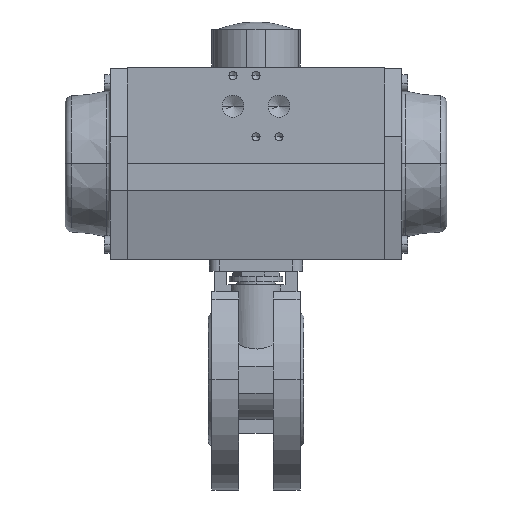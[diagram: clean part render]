
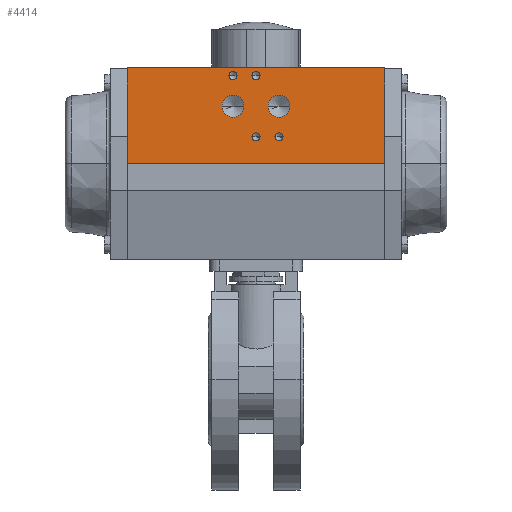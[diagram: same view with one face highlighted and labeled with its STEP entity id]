
A CAD part, top view. The second image highlights one B-rep face of the part: STEP entity #4414.
In plain terms, the highlighted planar face has unit normal (0, 0, 1) as drawn and (1, 0, 0) by its records, which use the part's own axes.
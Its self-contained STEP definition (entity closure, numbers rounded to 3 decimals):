
#2409 = CARTESIAN_POINT ( 'NONE',  ( 49.5, 46., 12. ) ) ;
#2410 = DIRECTION ( 'NONE',  ( 1., 0., 0. ) ) ;
#2411 = DIRECTION ( 'NONE',  ( 0., 0., -1. ) ) ;
#2427 = CARTESIAN_POINT ( 'NONE',  ( 49.5, 14., -12. ) ) ;
#2428 = DIRECTION ( 'NONE',  ( 1., 0., 0. ) ) ;
#2429 = DIRECTION ( 'NONE',  ( 0., 0., -1. ) ) ;
#2445 = CARTESIAN_POINT ( 'NONE',  ( 49.5, 14., 0. ) ) ;
#2446 = DIRECTION ( 'NONE',  ( 1., 0., 0. ) ) ;
#2447 = DIRECTION ( 'NONE',  ( 0., 0., -1. ) ) ;
#2463 = CARTESIAN_POINT ( 'NONE',  ( 49.5, 46., 0. ) ) ;
#2464 = DIRECTION ( 'NONE',  ( 1., 0., 0. ) ) ;
#2465 = DIRECTION ( 'NONE',  ( 0., 0., -1. ) ) ;
#2481 = CARTESIAN_POINT ( 'NONE',  ( 49.5, 30., -12. ) ) ;
#2482 = DIRECTION ( 'NONE',  ( 1., 0., 0. ) ) ;
#2483 = DIRECTION ( 'NONE',  ( 0., 0., -1. ) ) ;
#2498 = CARTESIAN_POINT ( 'NONE',  ( 49.5, 30., 12. ) ) ;
#2499 = DIRECTION ( 'NONE',  ( 1., 0., 0. ) ) ;
#2500 = DIRECTION ( 'NONE',  ( 0., 0., -1. ) ) ;
#2880 = LINE ( 'NONE', #2881, #12452 ) ;
#2881 = CARTESIAN_POINT ( 'NONE',  ( 49.5, 50., -67. ) ) ;
#2882 = DIRECTION ( 'NONE',  ( 0., 0., 1. ) ) ;
#2886 = CARTESIAN_POINT ( 'NONE',  ( 49.5, 46., 12. ) ) ;
#2887 = DIRECTION ( 'NONE',  ( 1., 0., 0. ) ) ;
#2888 = DIRECTION ( 'NONE',  ( 0., 0., -1. ) ) ;
#2889 = CARTESIAN_POINT ( 'NONE',  ( 49.5, 14., -12. ) ) ;
#2890 = DIRECTION ( 'NONE',  ( 1., 0., 0. ) ) ;
#2891 = DIRECTION ( 'NONE',  ( 0., 0., -1. ) ) ;
#2893 = CARTESIAN_POINT ( 'NONE',  ( 49.5, 14., 0. ) ) ;
#2894 = DIRECTION ( 'NONE',  ( 1., 0., 0. ) ) ;
#2895 = DIRECTION ( 'NONE',  ( 0., 0., -1. ) ) ;
#2896 = CARTESIAN_POINT ( 'NONE',  ( 49.5, 46., 0. ) ) ;
#2897 = DIRECTION ( 'NONE',  ( 1., 0., 0. ) ) ;
#2898 = DIRECTION ( 'NONE',  ( 0., 0., -1. ) ) ;
#2899 = CARTESIAN_POINT ( 'NONE',  ( 49.5, 30., -12. ) ) ;
#2900 = DIRECTION ( 'NONE',  ( 1., 0., 0. ) ) ;
#2901 = DIRECTION ( 'NONE',  ( 0., 0., -1. ) ) ;
#4414 = ADVANCED_FACE ( 'NONE', ( #11979, #11966, #11982, #11984, #11978, #11980, #11981 ), #11983, .T. ) ;
#5371 = EDGE_CURVE ( 'NONE', #5949, #5950, #9858, .T. ) ;
#5372 = EDGE_CURVE ( 'NONE', #5847, #5839, #7761, .T. ) ;
#5374 = EDGE_CURVE ( 'NONE', #5839, #5841, #7759, .T. ) ;
#5376 = EDGE_CURVE ( 'NONE', #5847, #5842, #7765, .T. ) ;
#5839 = VERTEX_POINT ( 'NONE', #7958 ) ;
#5841 = VERTEX_POINT ( 'NONE', #7960 ) ;
#5842 = VERTEX_POINT ( 'NONE', #7961 ) ;
#5847 = VERTEX_POINT ( 'NONE', #7966 ) ;
#5949 = VERTEX_POINT ( 'NONE', #6852 ) ;
#5950 = VERTEX_POINT ( 'NONE', #6853 ) ;
#5954 = VERTEX_POINT ( 'NONE', #6857 ) ;
#5955 = VERTEX_POINT ( 'NONE', #6858 ) ;
#5959 = VERTEX_POINT ( 'NONE', #6862 ) ;
#5960 = VERTEX_POINT ( 'NONE', #6863 ) ;
#5964 = VERTEX_POINT ( 'NONE', #6867 ) ;
#5965 = VERTEX_POINT ( 'NONE', #6868 ) ;
#5970 = VERTEX_POINT ( 'NONE', #6873 ) ;
#5971 = VERTEX_POINT ( 'NONE', #6874 ) ;
#5975 = VERTEX_POINT ( 'NONE', #6878 ) ;
#5976 = VERTEX_POINT ( 'NONE', #6879 ) ;
#6852 = CARTESIAN_POINT ( 'NONE',  ( 49.5, 30., 6.277 ) ) ;
#6853 = CARTESIAN_POINT ( 'NONE',  ( 49.5, 30., 17.722 ) ) ;
#6857 = CARTESIAN_POINT ( 'NONE',  ( 49.5, 30., -17.723 ) ) ;
#6858 = CARTESIAN_POINT ( 'NONE',  ( 49.5, 30., -6.277 ) ) ;
#6862 = CARTESIAN_POINT ( 'NONE',  ( 49.5, 46., -2.1 ) ) ;
#6863 = CARTESIAN_POINT ( 'NONE',  ( 49.5, 46., 2.1 ) ) ;
#6867 = CARTESIAN_POINT ( 'NONE',  ( 49.5, 14., -2.1 ) ) ;
#6868 = CARTESIAN_POINT ( 'NONE',  ( 49.5, 14., 2.1 ) ) ;
#6873 = CARTESIAN_POINT ( 'NONE',  ( 49.5, 14., -14.1 ) ) ;
#6874 = CARTESIAN_POINT ( 'NONE',  ( 49.5, 14., -9.9 ) ) ;
#6878 = CARTESIAN_POINT ( 'NONE',  ( 49.5, 46., 9.9 ) ) ;
#6879 = CARTESIAN_POINT ( 'NONE',  ( 49.5, 46., 14.1 ) ) ;
#7474 = ORIENTED_EDGE ( 'NONE', *, *, #11423, .F. ) ;
#7515 = ORIENTED_EDGE ( 'NONE', *, *, #11409, .F. ) ;
#7517 = ORIENTED_EDGE ( 'NONE', *, *, #11589, .F. ) ;
#7519 = ORIENTED_EDGE ( 'NONE', *, *, #11403, .F. ) ;
#7521 = ORIENTED_EDGE ( 'NONE', *, *, #11588, .F. ) ;
#7571 = ORIENTED_EDGE ( 'NONE', *, *, #5371, .F. ) ;
#7575 = ORIENTED_EDGE ( 'NONE', *, *, #11429, .F. ) ;
#7577 = ORIENTED_EDGE ( 'NONE', *, *, #5372, .F. ) ;
#7579 = ORIENTED_EDGE ( 'NONE', *, *, #11436, .F. ) ;
#7580 = ORIENTED_EDGE ( 'NONE', *, *, #11585, .T. ) ;
#7582 = ORIENTED_EDGE ( 'NONE', *, *, #5374, .F. ) ;
#7584 = ORIENTED_EDGE ( 'NONE', *, *, #14150, .F. ) ;
#7586 = ORIENTED_EDGE ( 'NONE', *, *, #14149, .F. ) ;
#7588 = ORIENTED_EDGE ( 'NONE', *, *, #11416, .F. ) ;
#7591 = ORIENTED_EDGE ( 'NONE', *, *, #5376, .T. ) ;
#7734 = CARTESIAN_POINT ( 'NONE',  ( 49.5, 0., -67. ) ) ;
#7759 = LINE ( 'NONE', #7770, #9856 ) ;
#7761 = LINE ( 'NONE', #7734, #9860 ) ;
#7762 = CARTESIAN_POINT ( 'NONE',  ( 49.5, 30., 12. ) ) ;
#7763 = DIRECTION ( 'NONE',  ( 1., 0., 0. ) ) ;
#7764 = DIRECTION ( 'NONE',  ( 0., 0., -1. ) ) ;
#7765 = LINE ( 'NONE', #7776, #9855 ) ;
#7766 = DIRECTION ( 'NONE',  ( 0., 0., 1. ) ) ;
#7770 = CARTESIAN_POINT ( 'NONE',  ( 49.5, 0., 67. ) ) ;
#7771 = DIRECTION ( 'NONE',  ( 0., 1., 0. ) ) ;
#7776 = CARTESIAN_POINT ( 'NONE',  ( 49.5, 0., -67. ) ) ;
#7778 = DIRECTION ( 'NONE',  ( 0., 1., 0. ) ) ;
#7958 = CARTESIAN_POINT ( 'NONE',  ( 49.5, 0., 67. ) ) ;
#7960 = CARTESIAN_POINT ( 'NONE',  ( 49.5, 50., 67. ) ) ;
#7961 = CARTESIAN_POINT ( 'NONE',  ( 49.5, 50., -67. ) ) ;
#7966 = CARTESIAN_POINT ( 'NONE',  ( 49.5, 0., -67. ) ) ;
#9263 = ORIENTED_EDGE ( 'NONE', *, *, #11590, .F. ) ;
#9855 = VECTOR ( 'NONE', #7778, 1000. ) ;
#9856 = VECTOR ( 'NONE', #7771, 1000. ) ;
#9857 = AXIS2_PLACEMENT_3D ( 'NONE', #7762, #7763, #7764 ) ;
#9858 = CIRCLE ( 'NONE', #9857, 5.722 ) ;
#9860 = VECTOR ( 'NONE', #7766, 1000. ) ;
#10182 = AXIS2_PLACEMENT_3D ( 'NONE', #11995, #11996, #11997 ) ;
#11403 = EDGE_CURVE ( 'NONE', #5976, #5975, #12252, .T. ) ;
#11409 = EDGE_CURVE ( 'NONE', #5971, #5970, #12241, .T. ) ;
#11416 = EDGE_CURVE ( 'NONE', #5965, #5964, #12230, .T. ) ;
#11423 = EDGE_CURVE ( 'NONE', #5960, #5959, #12218, .T. ) ;
#11429 = EDGE_CURVE ( 'NONE', #5955, #5954, #12210, .T. ) ;
#11436 = EDGE_CURVE ( 'NONE', #5950, #5949, #12202, .T. ) ;
#11585 = EDGE_CURVE ( 'NONE', #5842, #5841, #2880, .T. ) ;
#11588 = EDGE_CURVE ( 'NONE', #5975, #5976, #12460, .T. ) ;
#11589 = EDGE_CURVE ( 'NONE', #5970, #5971, #12469, .T. ) ;
#11590 = EDGE_CURVE ( 'NONE', #5964, #5965, #12479, .T. ) ;
#11966 = FACE_BOUND ( 'NONE', #14085, .T. ) ;
#11978 = FACE_BOUND ( 'NONE', #14092, .T. ) ;
#11979 = FACE_BOUND ( 'NONE', #14091, .T. ) ;
#11980 = FACE_BOUND ( 'NONE', #14086, .T. ) ;
#11981 = FACE_OUTER_BOUND ( 'NONE', #14094, .T. ) ;
#11982 = FACE_BOUND ( 'NONE', #14093, .T. ) ;
#11983 = PLANE ( 'NONE',  #10182 ) ;
#11984 = FACE_BOUND ( 'NONE', #14090, .T. ) ;
#11995 = CARTESIAN_POINT ( 'NONE',  ( 49.5, 0., -67. ) ) ;
#11996 = DIRECTION ( 'NONE',  ( 1., 0., 0. ) ) ;
#11997 = DIRECTION ( 'NONE',  ( 0., 1., 0. ) ) ;
#12198 = AXIS2_PLACEMENT_3D ( 'NONE', #2498, #2499, #2500 ) ;
#12202 = CIRCLE ( 'NONE', #12198, 5.722 ) ;
#12206 = AXIS2_PLACEMENT_3D ( 'NONE', #2481, #2482, #2483 ) ;
#12210 = CIRCLE ( 'NONE', #12206, 5.723 ) ;
#12214 = AXIS2_PLACEMENT_3D ( 'NONE', #2463, #2464, #2465 ) ;
#12218 = CIRCLE ( 'NONE', #12214, 2.1 ) ;
#12225 = AXIS2_PLACEMENT_3D ( 'NONE', #2445, #2446, #2447 ) ;
#12230 = CIRCLE ( 'NONE', #12225, 2.1 ) ;
#12237 = AXIS2_PLACEMENT_3D ( 'NONE', #2427, #2428, #2429 ) ;
#12241 = CIRCLE ( 'NONE', #12237, 2.1 ) ;
#12248 = AXIS2_PLACEMENT_3D ( 'NONE', #2409, #2410, #2411 ) ;
#12252 = CIRCLE ( 'NONE', #12248, 2.1 ) ;
#12448 = CIRCLE ( 'NONE', #12499, 2.1 ) ;
#12452 = VECTOR ( 'NONE', #2882, 1000. ) ;
#12460 = CIRCLE ( 'NONE', #12478, 2.1 ) ;
#12469 = CIRCLE ( 'NONE', #12483, 2.1 ) ;
#12478 = AXIS2_PLACEMENT_3D ( 'NONE', #2886, #2887, #2888 ) ;
#12479 = CIRCLE ( 'NONE', #12490, 2.1 ) ;
#12483 = AXIS2_PLACEMENT_3D ( 'NONE', #2889, #2890, #2891 ) ;
#12489 = CIRCLE ( 'NONE', #12503, 5.723 ) ;
#12490 = AXIS2_PLACEMENT_3D ( 'NONE', #2893, #2894, #2895 ) ;
#12499 = AXIS2_PLACEMENT_3D ( 'NONE', #2896, #2897, #2898 ) ;
#12503 = AXIS2_PLACEMENT_3D ( 'NONE', #2899, #2900, #2901 ) ;
#14085 = EDGE_LOOP ( 'NONE', ( #7517, #7515 ) ) ;
#14086 = EDGE_LOOP ( 'NONE', ( #7571, #7579 ) ) ;
#14090 = EDGE_LOOP ( 'NONE', ( #7586, #7474 ) ) ;
#14091 = EDGE_LOOP ( 'NONE', ( #7521, #7519 ) ) ;
#14092 = EDGE_LOOP ( 'NONE', ( #7584, #7575 ) ) ;
#14093 = EDGE_LOOP ( 'NONE', ( #9263, #7588 ) ) ;
#14094 = EDGE_LOOP ( 'NONE', ( #7580, #7582, #7577, #7591 ) ) ;
#14149 = EDGE_CURVE ( 'NONE', #5959, #5960, #12448, .T. ) ;
#14150 = EDGE_CURVE ( 'NONE', #5954, #5955, #12489, .T. ) ;
